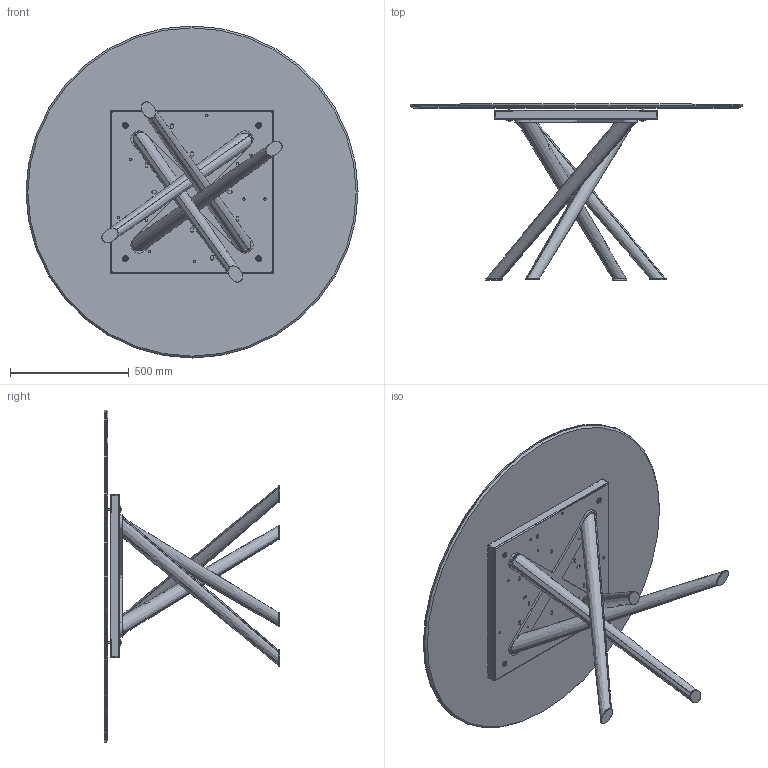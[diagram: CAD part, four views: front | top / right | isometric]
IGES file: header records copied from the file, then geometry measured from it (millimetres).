
Start section: SolidWorks IGES file using analytic representation for surfaces
Global section: file name: Y:\eforma\TECNICO\SOLIDWORKS\E-FORMA\1-TAVOLI\BALY\02 parts\BA06C.IGS; native system: SolidWorks 2022; preprocessor: SolidWorks 2022; author: eforma.tech; date: 240808.083503; units: millimetre
Bounding box: 1400 x 741 x 1400 mm (x, y, z)
Volume: 29167752.9 mm3; surface area: 9020074.8 mm2
Topology: 24 solids, 24 shells, 691 faces, 1771 edges, 1124 vertices
Faces by surface type: revolution 371, plane 312, bspline 8
